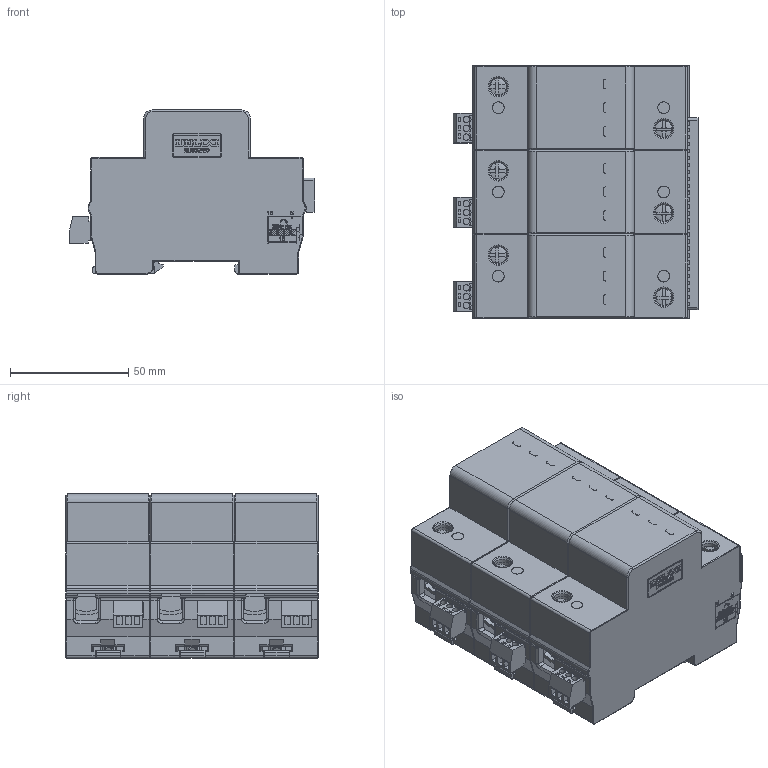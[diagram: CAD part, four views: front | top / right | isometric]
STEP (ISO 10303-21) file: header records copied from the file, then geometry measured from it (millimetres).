
FILE_DESCRIPTION((''),'2;1');
FILE_NAME('2207002700_SW0008','2023-03-16T',('linxiao.guan'),(''),'PRO/ENGINEER BY PARAMETRIC TECHNOLOGY CORPORATION, 2015440','PRO/ENGINEER BY PARAMETRIC TECHNOLOGY CORPORATION, 2015440','');
FILE_SCHEMA(('CONFIG_CONTROL_DESIGN'));
Products named in the file (1): 2207002700_SW0008
Bounding box: 103.8 x 106.8 x 69.4 mm (x, y, z)
Volume: 180749.7 mm3; surface area: 170229.4 mm2
Topology: 1 solids, 1 shells, 5203 faces, 14835 edges, 9635 vertices
Faces by surface type: plane 4032, cylinder 842, torus 116, cone 111, bspline 78, sphere 24
Entity records: 201033 total; most frequent: CARTESIAN_POINT 64290, ORIENTED_EDGE 29670, DIRECTION 26682, EDGE_CURVE 14835, VECTOR 12170, LINE 12170, VERTEX_POINT 9635, AXIS2_PLACEMENT_3D 7256
